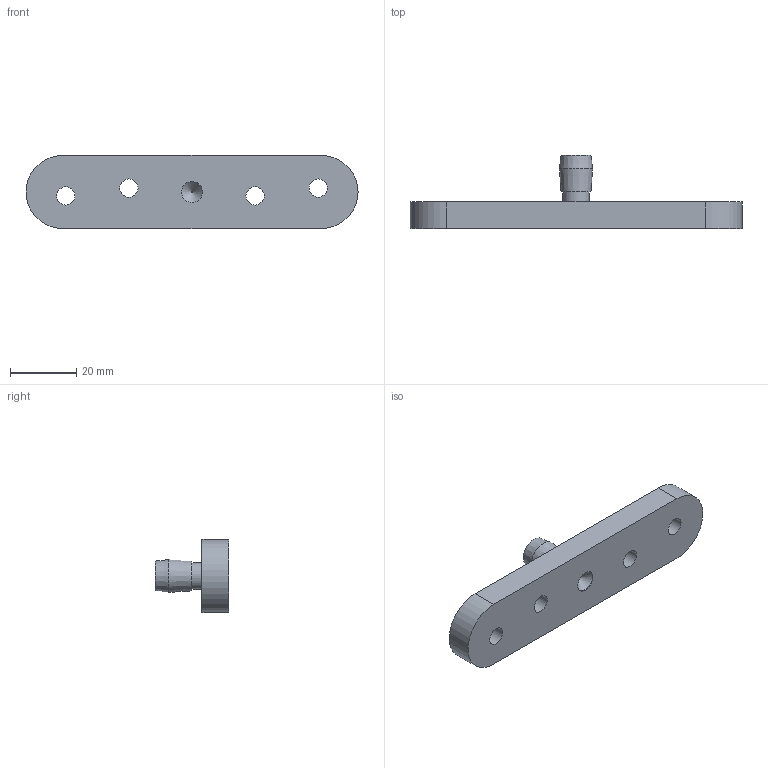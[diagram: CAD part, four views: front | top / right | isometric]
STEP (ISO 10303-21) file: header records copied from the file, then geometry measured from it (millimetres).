
FILE_DESCRIPTION(/* description */ ('Bodenfuehrungsrolle MS10'),/* implementation_level */ '2;1');
FILE_NAME(/* name */ 'Q:\sge-ma\Produktmanagement-STB\STB\Workspace\TraceParts\Bodenführungsrolle Messing mit Platte\010336282.stp',/* time_stamp */ '2018-03-05T11:45:43+01:00',/* author */ ('avschreier'),/* organization */ (''),/* preprocessor_version */ 'ST-DEVELOPER v16.1',/* originating_system */ 'Autodesk Inventor 2016',/* authorisation */ '');
FILE_SCHEMA (('CONFIG_CONTROL_DESIGN'));
Length unit declared in the file: millimetre
Products named in the file (6): 010336282_Schweißnähte; 337000168; 337000167; 337000166; DIN_EN_ISO_7090-3,2_en; 010336282
Assembly tree (5 placements, depth 2):
  010336282
    010336282_Schweißnähte
    337000168
    337000167
    337000166
    DIN_EN_ISO_7090-3,2_en
Bounding box: 100 x 22 x 22 mm (x, y, z)
Volume: 16484.5 mm3; surface area: 7630.9 mm2
Topology: 5 solids, 5 shells, 38 faces, 71 edges, 46 vertices
Faces by surface type: cylinder 16, plane 15, cone 7
Full cylindrical faces by diameter (mm): 3 x1, 3.2 x1, 5 x1, 5.4 x1, 5.5 x4, 6.2 x1, 6.4 x2, 7 x1, 7.5 x1, 8 x1
Entity records: 1041 total; most frequent: DIRECTION 190, CARTESIAN_POINT 145, ORIENTED_EDGE 100, AXIS2_PLACEMENT_3D 91, EDGE_LOOP 78, EDGE_CURVE 50, VERTEX_POINT 46, CIRCLE 42
